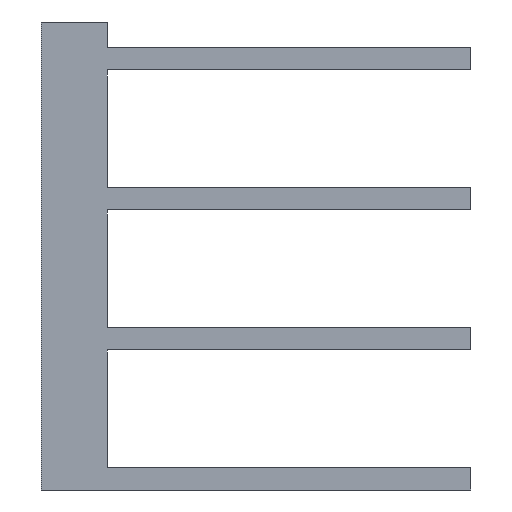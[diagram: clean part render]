
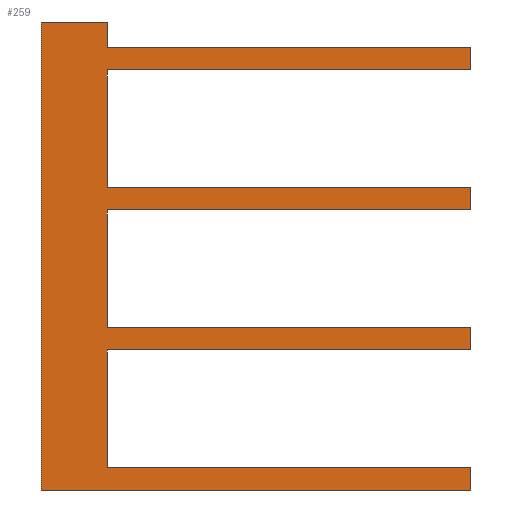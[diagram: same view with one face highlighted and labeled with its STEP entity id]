
A CAD part, front view. The second image highlights one B-rep face of the part: STEP entity #259.
In plain terms, the highlighted planar face has unit normal (0, -1, 0).
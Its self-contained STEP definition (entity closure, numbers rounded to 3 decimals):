
#22 = VERTEX_POINT('',#23);
#23 = CARTESIAN_POINT('',(-115.,-4.,38.1));
#31 = EDGE_CURVE('',#22,#32,#34,.T.);
#32 = VERTEX_POINT('',#33);
#33 = CARTESIAN_POINT('',(-115.,-4.,40.45));
#34 = LINE('',#35,#36);
#35 = CARTESIAN_POINT('',(-115.,-4.,-2.));
#36 = VECTOR('',#37,1.);
#37 = DIRECTION('',(0.,0.,1.));
#62 = EDGE_CURVE('',#22,#63,#65,.T.);
#63 = VERTEX_POINT('',#64);
#64 = CARTESIAN_POINT('',(-82.,-4.,38.1));
#65 = LINE('',#66,#67);
#66 = CARTESIAN_POINT('',(-116.,-4.,38.1));
#67 = VECTOR('',#68,1.);
#68 = DIRECTION('',(1.,0.,0.));
#239 = EDGE_CURVE('',#240,#32,#242,.T.);
#240 = VERTEX_POINT('',#241);
#241 = CARTESIAN_POINT('',(-121.,-4.,40.45));
#242 = LINE('',#243,#244);
#243 = CARTESIAN_POINT('',(-121.,-4.,40.45));
#244 = VECTOR('',#245,1.);
#245 = DIRECTION('',(1.,0.,0.));
#259 = ADVANCED_FACE('',(#260),#383,.T.);
#260 = FACE_BOUND('',#261,.T.);
#261 = EDGE_LOOP('',(#262,#270,#278,#286,#294,#302,#310,#318,#326,#334,
    #342,#350,#358,#366,#374,#380,#381,#382));
#262 = ORIENTED_EDGE('',*,*,#263,.F.);
#263 = EDGE_CURVE('',#264,#240,#266,.T.);
#264 = VERTEX_POINT('',#265);
#265 = CARTESIAN_POINT('',(-121.,-4.,-2.));
#266 = LINE('',#267,#268);
#267 = CARTESIAN_POINT('',(-121.,-4.,-2.));
#268 = VECTOR('',#269,1.);
#269 = DIRECTION('',(0.,0.,1.));
#270 = ORIENTED_EDGE('',*,*,#271,.T.);
#271 = EDGE_CURVE('',#264,#272,#274,.T.);
#272 = VERTEX_POINT('',#273);
#273 = CARTESIAN_POINT('',(-82.,-4.,-2.));
#274 = LINE('',#275,#276);
#275 = CARTESIAN_POINT('',(-121.,-4.,-2.));
#276 = VECTOR('',#277,1.);
#277 = DIRECTION('',(1.,0.,0.));
#278 = ORIENTED_EDGE('',*,*,#279,.T.);
#279 = EDGE_CURVE('',#272,#280,#282,.T.);
#280 = VERTEX_POINT('',#281);
#281 = CARTESIAN_POINT('',(-82.,-4.,0.));
#282 = LINE('',#283,#284);
#283 = CARTESIAN_POINT('',(-82.,-4.,-2.));
#284 = VECTOR('',#285,1.);
#285 = DIRECTION('',(0.,0.,1.));
#286 = ORIENTED_EDGE('',*,*,#287,.F.);
#287 = EDGE_CURVE('',#288,#280,#290,.T.);
#288 = VERTEX_POINT('',#289);
#289 = CARTESIAN_POINT('',(-115.,-4.,0.));
#290 = LINE('',#291,#292);
#291 = CARTESIAN_POINT('',(-116.,-4.,0.));
#292 = VECTOR('',#293,1.);
#293 = DIRECTION('',(1.,0.,0.));
#294 = ORIENTED_EDGE('',*,*,#295,.T.);
#295 = EDGE_CURVE('',#288,#296,#298,.T.);
#296 = VERTEX_POINT('',#297);
#297 = CARTESIAN_POINT('',(-115.,-4.,10.7));
#298 = LINE('',#299,#300);
#299 = CARTESIAN_POINT('',(-115.,-4.,-2.));
#300 = VECTOR('',#301,1.);
#301 = DIRECTION('',(0.,0.,1.));
#302 = ORIENTED_EDGE('',*,*,#303,.T.);
#303 = EDGE_CURVE('',#296,#304,#306,.T.);
#304 = VERTEX_POINT('',#305);
#305 = CARTESIAN_POINT('',(-82.,-4.,10.7));
#306 = LINE('',#307,#308);
#307 = CARTESIAN_POINT('',(-116.,-4.,10.7));
#308 = VECTOR('',#309,1.);
#309 = DIRECTION('',(1.,0.,0.));
#310 = ORIENTED_EDGE('',*,*,#311,.T.);
#311 = EDGE_CURVE('',#304,#312,#314,.T.);
#312 = VERTEX_POINT('',#313);
#313 = CARTESIAN_POINT('',(-82.,-4.,12.7));
#314 = LINE('',#315,#316);
#315 = CARTESIAN_POINT('',(-82.,-4.,10.7));
#316 = VECTOR('',#317,1.);
#317 = DIRECTION('',(0.,0.,1.));
#318 = ORIENTED_EDGE('',*,*,#319,.F.);
#319 = EDGE_CURVE('',#320,#312,#322,.T.);
#320 = VERTEX_POINT('',#321);
#321 = CARTESIAN_POINT('',(-115.,-4.,12.7));
#322 = LINE('',#323,#324);
#323 = CARTESIAN_POINT('',(-116.,-4.,12.7));
#324 = VECTOR('',#325,1.);
#325 = DIRECTION('',(1.,0.,0.));
#326 = ORIENTED_EDGE('',*,*,#327,.T.);
#327 = EDGE_CURVE('',#320,#328,#330,.T.);
#328 = VERTEX_POINT('',#329);
#329 = CARTESIAN_POINT('',(-115.,-4.,23.4));
#330 = LINE('',#331,#332);
#331 = CARTESIAN_POINT('',(-115.,-4.,-2.));
#332 = VECTOR('',#333,1.);
#333 = DIRECTION('',(0.,0.,1.));
#334 = ORIENTED_EDGE('',*,*,#335,.T.);
#335 = EDGE_CURVE('',#328,#336,#338,.T.);
#336 = VERTEX_POINT('',#337);
#337 = CARTESIAN_POINT('',(-82.,-4.,23.4));
#338 = LINE('',#339,#340);
#339 = CARTESIAN_POINT('',(-116.,-4.,23.4));
#340 = VECTOR('',#341,1.);
#341 = DIRECTION('',(1.,0.,0.));
#342 = ORIENTED_EDGE('',*,*,#343,.T.);
#343 = EDGE_CURVE('',#336,#344,#346,.T.);
#344 = VERTEX_POINT('',#345);
#345 = CARTESIAN_POINT('',(-82.,-4.,25.4));
#346 = LINE('',#347,#348);
#347 = CARTESIAN_POINT('',(-82.,-4.,23.4));
#348 = VECTOR('',#349,1.);
#349 = DIRECTION('',(0.,0.,1.));
#350 = ORIENTED_EDGE('',*,*,#351,.F.);
#351 = EDGE_CURVE('',#352,#344,#354,.T.);
#352 = VERTEX_POINT('',#353);
#353 = CARTESIAN_POINT('',(-115.,-4.,25.4));
#354 = LINE('',#355,#356);
#355 = CARTESIAN_POINT('',(-116.,-4.,25.4));
#356 = VECTOR('',#357,1.);
#357 = DIRECTION('',(1.,0.,0.));
#358 = ORIENTED_EDGE('',*,*,#359,.T.);
#359 = EDGE_CURVE('',#352,#360,#362,.T.);
#360 = VERTEX_POINT('',#361);
#361 = CARTESIAN_POINT('',(-115.,-4.,36.1));
#362 = LINE('',#363,#364);
#363 = CARTESIAN_POINT('',(-115.,-4.,-2.));
#364 = VECTOR('',#365,1.);
#365 = DIRECTION('',(0.,0.,1.));
#366 = ORIENTED_EDGE('',*,*,#367,.T.);
#367 = EDGE_CURVE('',#360,#368,#370,.T.);
#368 = VERTEX_POINT('',#369);
#369 = CARTESIAN_POINT('',(-82.,-4.,36.1));
#370 = LINE('',#371,#372);
#371 = CARTESIAN_POINT('',(-116.,-4.,36.1));
#372 = VECTOR('',#373,1.);
#373 = DIRECTION('',(1.,0.,0.));
#374 = ORIENTED_EDGE('',*,*,#375,.T.);
#375 = EDGE_CURVE('',#368,#63,#376,.T.);
#376 = LINE('',#377,#378);
#377 = CARTESIAN_POINT('',(-82.,-4.,36.1));
#378 = VECTOR('',#379,1.);
#379 = DIRECTION('',(0.,0.,1.));
#380 = ORIENTED_EDGE('',*,*,#62,.F.);
#381 = ORIENTED_EDGE('',*,*,#31,.T.);
#382 = ORIENTED_EDGE('',*,*,#239,.F.);
#383 = PLANE('',#384);
#384 = AXIS2_PLACEMENT_3D('',#385,#386,#387);
#385 = CARTESIAN_POINT('',(-103.004,-4.,18.365));
#386 = DIRECTION('',(-0.,-1.,-0.));
#387 = DIRECTION('',(0.,0.,-1.));
